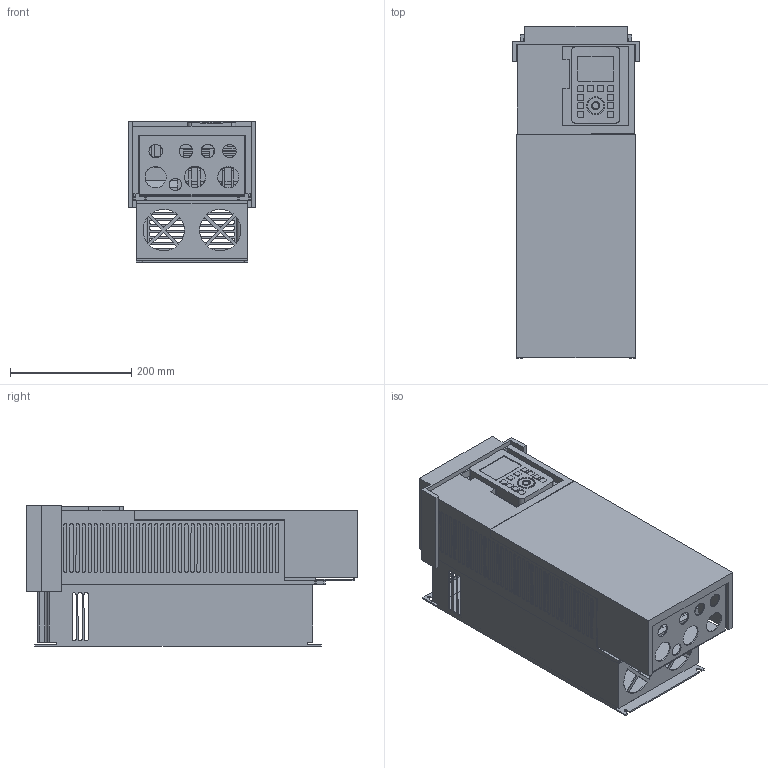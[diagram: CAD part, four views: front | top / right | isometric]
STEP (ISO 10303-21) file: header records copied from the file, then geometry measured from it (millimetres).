
FILE_DESCRIPTION((''),'2;1');
FILE_NAME('VFAS3_SA3_ASM','2016-05-09T',('SESA57331'),('Schneider-Electric'),'PRO/ENGINEER BY PARAMETRIC TECHNOLOGY CORPORATION, 2012420','PRO/ENGINEER BY PARAMETRIC TECHNOLOGY CORPORATION, 2012420','');
FILE_SCHEMA(('CONFIG_CONTROL_DESIGN'));
Length unit declared in the file: millimetre
Products named in the file (11): PRT0001; PRT0002; PRT0003; PRT0004; PRT0005; PRT0006; PRT0007; PRT0008; ASM0003_ASM; PRT0009; VFAS3_SA3_ASM
Assembly tree (10 placements, depth 3):
  VFAS3_SA3_ASM
    PRT0001
    PRT0002
    PRT0003
    ASM0003_ASM
      PRT0004
      PRT0005
      PRT0006
      PRT0007
      PRT0008
    PRT0009
Bounding box: 211.04 x 548.49 x 232.9 mm (x, y, z)
Volume: 8580004.1 mm3; surface area: 1352971.6 mm2
Topology: 9 solids, 9 shells, 1282 faces, 3497 edges, 2341 vertices
Faces by surface type: plane 864, extrusion 222, cylinder 196
Entity records: 54523 total; most frequent: CARTESIAN_POINT 22231, ORIENTED_EDGE 6992, DIRECTION 5717, EDGE_CURVE 3496, VECTOR 2717, LINE 2495, VERTEX_POINT 2340, EDGE_LOOP 1516
